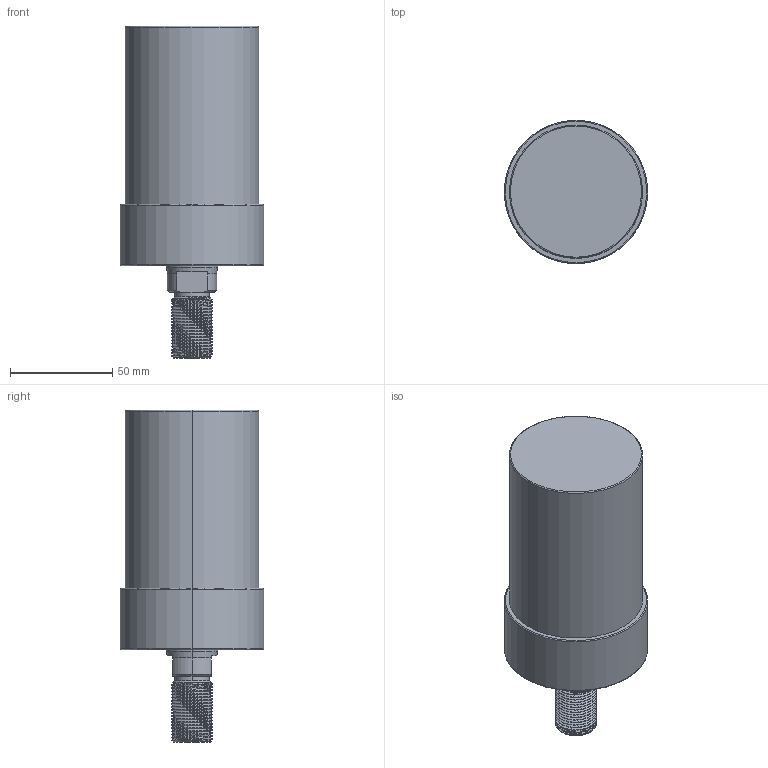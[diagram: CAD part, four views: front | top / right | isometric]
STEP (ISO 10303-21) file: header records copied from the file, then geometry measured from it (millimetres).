
FILE_DESCRIPTION (( 'STEP AP203' ), '1' );
FILE_NAME ('CLLU-065GT-070.STEP', '2020-01-16T01:20:10', ( '' ), ( '' ), 'SwSTEP 2.0', 'SolidWorks 2015', '' );
FILE_SCHEMA (( 'CONFIG_CONTROL_DESIGN' ));
Length unit declared in the file: millimetre
Products named in the file (1): CLLU-065GT-070
Bounding box: 70 x 70 x 162 mm (x, y, z)
Volume: 416954.5 mm3; surface area: 37336 mm2
Topology: 1 solids, 1 shells, 108 faces, 273 edges, 168 vertices
Faces by surface type: cylinder 61, cone 27, plane 12, torus 6, bspline 2
Entity records: 5394 total; most frequent: CARTESIAN_POINT 2970, ORIENTED_EDGE 530, DIRECTION 464, EDGE_CURVE 265, AXIS2_PLACEMENT_3D 185, VERTEX_POINT 168, EDGE_LOOP 117, FACE_OUTER_BOUND 108
